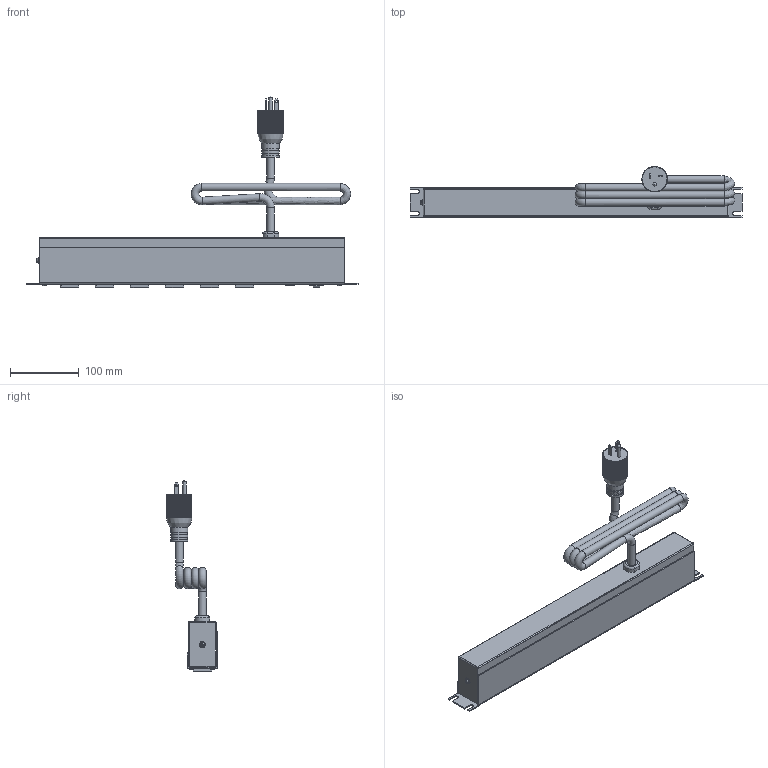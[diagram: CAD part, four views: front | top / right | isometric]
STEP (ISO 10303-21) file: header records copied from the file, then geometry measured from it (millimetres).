
FILE_DESCRIPTION((''),'2;1');
FILE_NAME('E:\Dutton\Manufacturing\drawings\Updated 2009\POWER BARS\1589 RF series\STEP''s\1589T6F1BKRF.stp','2010-01-12T10:01:04',('tfoster'),(''),'Autodesk Inventor 2010','Autodesk Inventor 2010','');
FILE_SCHEMA(('AUTOMOTIVE_DESIGN { 1 0 10303 214 1 1 1 1 }'));
Products named in the file (10): 1589T6F1BKRF; 1589H6 FR Front plate; 1589H6 & H8 RF Back Plate; #6x0.5 type A; Reset Switch; toothwasher; round head 1-way 8-32 x 0.5 screw; 20 amp Cored; 20 Amp Receptacle; Pilot light
Assembly tree (17 placements, depth 2):
  1589T6F1BKRF
    1589H6 FR Front plate
    1589H6 & H8 RF Back Plate
    #6x0.5 type A  x4
    Reset Switch
    toothwasher
    round head 1-way 8-32 x 0.5 screw
    20 amp Cored
    20 Amp Receptacle  x6
    Pilot light
Bounding box: 482.6 x 73.73 x 278.3 mm (x, y, z)
Volume: 430275.6 mm3; surface area: 314104.3 mm2
Topology: 17 solids, 17 shells, 1158 faces, 3372 edges, 2253 vertices
Faces by surface type: plane 788, cylinder 200, bspline 93, cone 31, sphere 30, torus 16
Full cylindrical faces by diameter (mm): 1.803 x3, 1.905 x2, 2.997 x4, 3.2 x2, 4.3 x1, 4.801 x1, 4.826 x1, 5.563 x4, 7.849 x1, 11 x4, 12.5 x1, 22.606 x2, 25.146 x3
Entity records: 27744 total; most frequent: CARTESIAN_POINT 8318, ORIENTED_EDGE 4180, DIRECTION 3667, EDGE_CURVE 2090, VERTEX_POINT 1421, VECTOR 1367, LINE 1367, AXIS2_PLACEMENT_3D 1150
